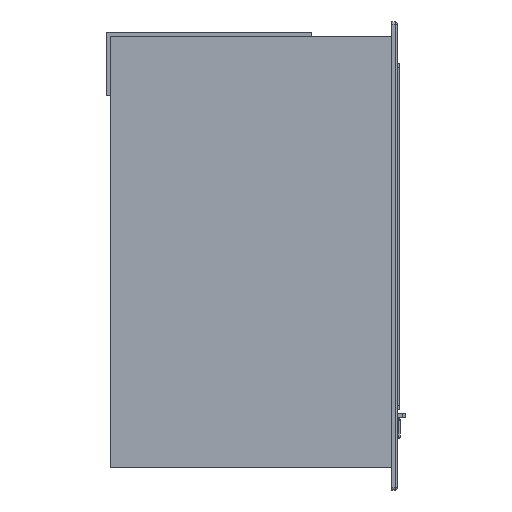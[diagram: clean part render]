
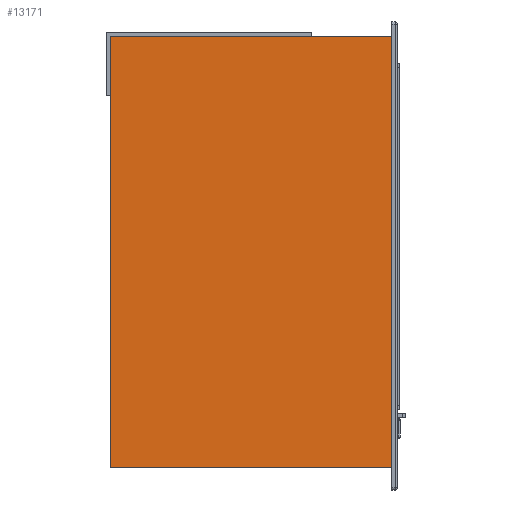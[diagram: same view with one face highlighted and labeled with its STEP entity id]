
A CAD part, left-side view. The second image highlights one B-rep face of the part: STEP entity #13171.
In plain terms, the highlighted planar face has unit normal (-1, 0, 0).
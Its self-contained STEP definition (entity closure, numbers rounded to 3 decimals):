
#3595=ORIENTED_EDGE('',*,*,#6380,.T.);
#3596=ORIENTED_EDGE('',*,*,#6253,.T.);
#3597=ORIENTED_EDGE('',*,*,#6453,.F.);
#3598=ORIENTED_EDGE('',*,*,#6431,.F.);
#6253=EDGE_CURVE('',#7885,#7884,#9011,.T.);
#6380=EDGE_CURVE('',#8010,#7885,#9035,.T.);
#6431=EDGE_CURVE('',#8010,#8060,#9086,.T.);
#6453=EDGE_CURVE('',#8060,#7884,#9104,.T.);
#7884=VERTEX_POINT('',#23492);
#7885=VERTEX_POINT('',#23494);
#8010=VERTEX_POINT('',#24118);
#8060=VERTEX_POINT('',#24231);
#9011=LINE('',#23493,#10071);
#9035=LINE('',#24117,#10095);
#9086=LINE('',#24230,#10146);
#9104=LINE('',#24270,#10164);
#10071=VECTOR('',#16439,1000.);
#10095=VECTOR('',#16477,1000.);
#10146=VECTOR('',#16552,1000.);
#10164=VECTOR('',#16582,1000.);
#11003=EDGE_LOOP('',(#3595,#3596,#3597,#3598));
#11888=FACE_BOUND('',#11003,.T.);
#12490=PLANE('',#14300);
#13171=ADVANCED_FACE('',(#11888),#12490,.F.);
#14300=AXIS2_PLACEMENT_3D('',#24277,#16587,#16588);
#16439=DIRECTION('',(0.,0.,-1.));
#16477=DIRECTION('',(0.,1.,0.));
#16552=DIRECTION('',(0.,0.,-1.));
#16582=DIRECTION('',(0.,1.,0.));
#16587=DIRECTION('',(1.,0.,0.));
#16588=DIRECTION('',(0.,0.,-1.));
#23492=CARTESIAN_POINT('',(-367.,-100.,0.));
#23493=CARTESIAN_POINT('',(-367.,-100.,534.));
#23494=CARTESIAN_POINT('',(-367.,-100.,534.));
#24117=CARTESIAN_POINT('',(-367.,-448.5,534.));
#24118=CARTESIAN_POINT('',(-367.,-448.5,534.));
#24230=CARTESIAN_POINT('',(-367.,-448.5,534.));
#24231=CARTESIAN_POINT('',(-367.,-448.5,0.));
#24270=CARTESIAN_POINT('',(-367.,-448.5,0.));
#24277=CARTESIAN_POINT('',(-367.,-448.5,534.));
